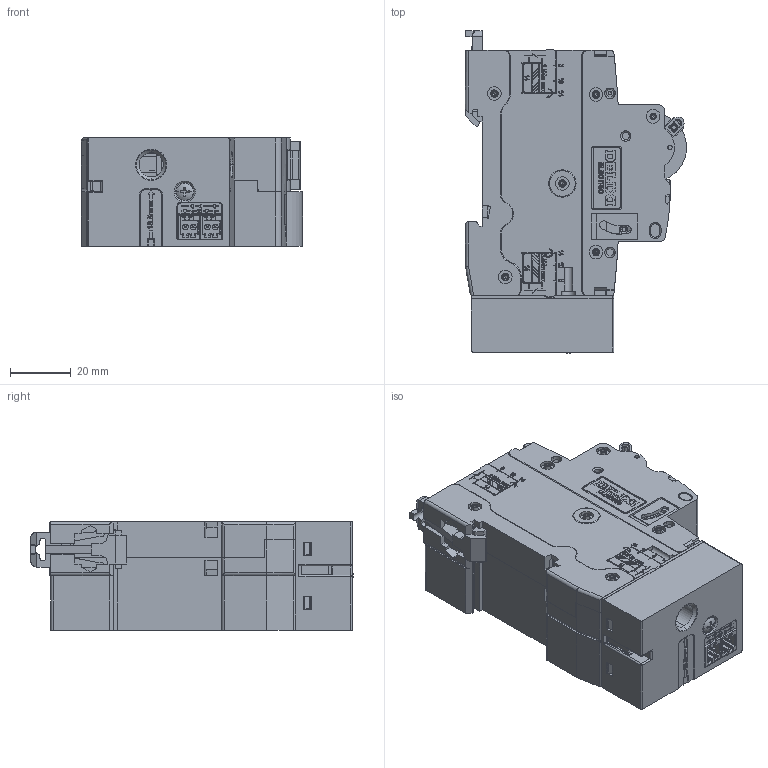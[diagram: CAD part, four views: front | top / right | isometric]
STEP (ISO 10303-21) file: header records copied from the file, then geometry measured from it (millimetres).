
FILE_DESCRIPTION((''),'2;1');
FILE_NAME('ASM0027_ASM','2023-11-10T',('wenjie.wang'),(''),'PRO/ENGINEER BY PARAMETRIC TECHNOLOGY CORPORATION, 2015440','PRO/ENGINEER BY PARAMETRIC TECHNOLOGY CORPORATION, 2015440','');
FILE_SCHEMA(('CONFIG_CONTROL_DESIGN'));
Products named in the file (3): 2255030700_SW0008; 5064059700; ASM0027_ASM
Assembly tree (2 placements, depth 2):
  ASM0027_ASM
    2255030700_SW0008
    5064059700
Bounding box: 72.79 x 106.18 x 36 mm (x, y, z)
Volume: 142211.1 mm3; surface area: 83499.7 mm2
Topology: 4 solids, 44 shells, 7356 faces, 19856 edges, 12762 vertices
Faces by surface type: plane 4534, cylinder 1538, extrusion 723, cone 262, torus 163, bspline 73, sphere 63
Entity records: 241177 total; most frequent: CARTESIAN_POINT 58834, ORIENTED_EDGE 39662, DIRECTION 34540, EDGE_CURVE 19831, VECTOR 14894, LINE 14171, VERTEX_POINT 12762, AXIS2_PLACEMENT_3D 9823
